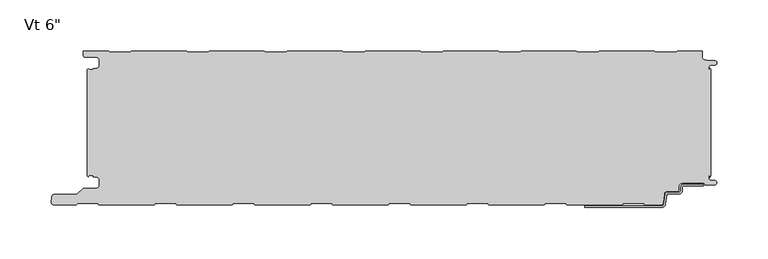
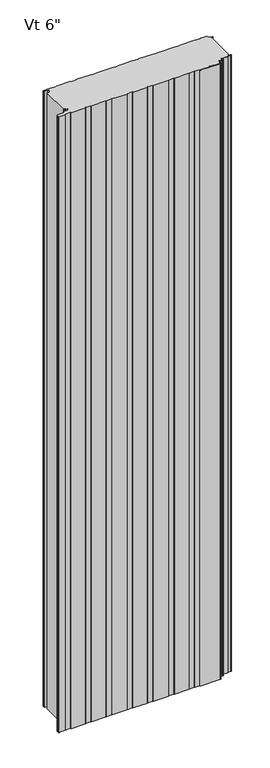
"""IFC4 building model written with IfcOpenShell, lengths in millimetres: plate geometry."""

import ifcopenshell
import ifcopenshell.guid

model = None  # the IFC model being written
_history = None  # IfcOwnerHistory: only IFC2X3 demands one
_inside = {}  # id of a spatial element -> (the spatial element, [elements in it])
_under = {}  # id of a project, library or spatial element -> (it, [spatial elements below it])
_declared = {}  # id of a project -> (the project, [libraries it declares])
_typed = {}  # id of a type object -> (the type object, [elements of that type])
_made_of = {}  # id of a material, layer set ... -> (it, [elements and type objects made of it])


def new_model(schema):
    """Start an empty IFC model of exactly this schema.

    Asked for "IFC4X3", IfcOpenShell would pick the latest addendum, in which some entities
    have other attributes; the version numbers below select the first issue.
    IFC2X3 requires an IfcOwnerHistory on every rooted entity: one is made here for all.
    """
    global model, _history
    if schema == "IFC4X3":
        model = ifcopenshell.file(schema_version=(4, 3, 0, 0))
    else:
        model = ifcopenshell.file(schema=schema)
    _inside.clear()
    _under.clear()
    _declared.clear()
    _typed.clear()
    _made_of.clear()
    _history = None
    if model.schema == "IFC2X3":
        org = make("IfcOrganization", Name="unknown")
        user = make(
            "IfcPersonAndOrganization",
            ThePerson=make("IfcPerson", FamilyName="unknown"),
            TheOrganization=org,
        )
        app = make(
            "IfcApplication",
            ApplicationDeveloper=org,
            Version="unknown",
            ApplicationFullName="unknown",
            ApplicationIdentifier="unknown",
        )
        _history = make(
            "IfcOwnerHistory",
            OwningUser=user,
            OwningApplication=app,
            ChangeAction="ADDED",
            CreationDate=0,
        )
    return model


def make(cls, **values):
    """One entity of the class cls with the attributes given. An attribute that is None is left unset."""
    return model.create_entity(
        cls, **{name: value for name, value in values.items() if value is not None}
    )


def rooted(cls, **values):
    """An entity with a GlobalId (a new one), such as an element, a storey or a relation."""
    return make(cls, GlobalId=ifcopenshell.guid.new(), OwnerHistory=_history, **values)


def si_unit(unit_type, name, prefix=None):
    """IfcSIUnit, for example si_unit("LENGTHUNIT", "METRE", prefix="MILLI")."""
    return make("IfcSIUnit", UnitType=unit_type, Prefix=prefix, Name=name)


def assignment(units):
    """IfcUnitAssignment: the units of a project."""
    return None if units is None else make("IfcUnitAssignment", Units=units)


def point(xyz):
    """IfcCartesianPoint."""
    return None if xyz is None else make("IfcCartesianPoint", Coordinates=xyz)


def direction(xyz):
    """IfcDirection."""
    return None if xyz is None else make("IfcDirection", DirectionRatios=xyz)


def frame(location, z_axis=None, x_axis=None):
    """IfcAxis2Placement3D, a coordinate frame: its origin and axes. An axis left out is left unset."""
    return make(
        "IfcAxis2Placement3D",
        Location=point(location),
        Axis=direction(z_axis),
        RefDirection=direction(x_axis),
    )


def frame_2d(location, x_axis=None):
    """IfcAxis2Placement2D, a coordinate frame in the plane: its origin and x axis."""
    return make(
        "IfcAxis2Placement2D", Location=point(location), RefDirection=direction(x_axis)
    )


def origin():
    """The frame at (0, 0, 0) with its axes left unset."""
    return frame((0.0, 0.0, 0.0))


def origin_with_axes():
    """The frame at (0, 0, 0) with the z axis (0, 0, 1) and the x axis (1, 0, 0) written out."""
    return frame((0.0, 0.0, 0.0), z_axis=(0.0, 0.0, 1.0), x_axis=(1.0, 0.0, 0.0))


def place(relative_to, where):
    """IfcLocalPlacement: puts the frame where relative to a parent placement (None: the world)."""
    return make(
        "IfcLocalPlacement", PlacementRelTo=relative_to, RelativePlacement=where
    )


def context(
    kind, dimensions, precision=None, world=None, true_north=None, identifier=None
):
    """IfcGeometricRepresentationContext, for example the 3D "Model" context."""
    return make(
        "IfcGeometricRepresentationContext",
        ContextIdentifier=identifier,
        ContextType=kind,
        CoordinateSpaceDimension=dimensions,
        Precision=precision,
        WorldCoordinateSystem=world,
        TrueNorth=true_north,
    )


def project(units=None, contexts=None):
    """IfcProject with its units and contexts."""
    return rooted(
        "IfcProject",
        Name="project",
        RepresentationContexts=contexts,
        UnitsInContext=assignment(units),
    )


def spatial(cls, under=None, at=None, **own):
    """A site, building, storey or space (cls), placed at a placement, below another one or the project."""
    s = rooted(cls, ObjectPlacement=at, **own)
    if under is not None:
        _under.setdefault(under.id(), (under, []))[1].append(s)
    return s


def polyline(points):
    """IfcPolyline through the points."""
    return make("IfcPolyline", Points=[point(p) for p in points])


def circle_curve(where, radius):
    """IfcCircle in the frame where."""
    return make("IfcCircle", Position=where, Radius=radius)


def trimmed(basis, trim1, trim2, sense, master):
    """IfcTrimmedCurve: the piece of a basis curve between two trims."""
    return make(
        "IfcTrimmedCurve",
        BasisCurve=basis,
        Trim1=trim1,
        Trim2=trim2,
        SenseAgreement=sense,
        MasterRepresentation=master,
    )


def segment(curve, same_sense, transition):
    """IfcCompositeCurveSegment."""
    return make(
        "IfcCompositeCurveSegment",
        Transition=transition,
        SameSense=same_sense,
        ParentCurve=curve,
    )


def composite_curve(segments, self_intersect=None):
    """IfcCompositeCurve: segments joined end to end."""
    return make("IfcCompositeCurve", Segments=segments, SelfIntersect=self_intersect)


def outline(outer, holes=None, kind="AREA"):
    """IfcArbitraryClosedProfileDef: a profile drawn as a closed curve; with holes, ...WithVoids."""
    if holes is None:
        return make("IfcArbitraryClosedProfileDef", ProfileType=kind, OuterCurve=outer)
    return make(
        "IfcArbitraryProfileDefWithVoids",
        ProfileType=kind,
        OuterCurve=outer,
        InnerCurves=holes,
    )


def extrude(swept, where, along, depth):
    """IfcExtrudedAreaSolid: the profile swept, set in the frame where, extruded along a direction by depth."""
    return make(
        "IfcExtrudedAreaSolid",
        SweptArea=swept,
        Position=where,
        ExtrudedDirection=direction(along),
        Depth=depth,
    )


def shape(context_of_items, identifier, shape_type, items):
    """IfcShapeRepresentation: the items that make up one representation, for example the "Body"."""
    return make(
        "IfcShapeRepresentation",
        ContextOfItems=context_of_items,
        RepresentationIdentifier=identifier,
        RepresentationType=shape_type,
        Items=items,
    )


def source(mapping_origin, context_of_items, identifier, shape_type, items):
    """IfcRepresentationMap: a shape defined once, which mapped items show again and again."""
    return make(
        "IfcRepresentationMap",
        MappingOrigin=mapping_origin,
        MappedRepresentation=shape(context_of_items, identifier, shape_type, items),
    )


def transform(
    local_origin,
    x_axis=None,
    y_axis=None,
    z_axis=None,
    scale=None,
    scale2=None,
    scale3=None,
    uniform=True,
):
    """IfcCartesianTransformationOperator3D, or its non-uniform kind. x_axis, y_axis, z_axis: its Axis1, 2, 3."""
    if uniform:
        return make(
            "IfcCartesianTransformationOperator3D",
            Axis1=direction(x_axis),
            Axis2=direction(y_axis),
            LocalOrigin=point(local_origin),
            Scale=scale,
            Axis3=direction(z_axis),
        )
    return make(
        "IfcCartesianTransformationOperator3DnonUniform",
        Axis1=direction(x_axis),
        Axis2=direction(y_axis),
        LocalOrigin=point(local_origin),
        Scale=scale,
        Axis3=direction(z_axis),
        Scale2=scale2,
        Scale3=scale3,
    )


def mapped(mapping_source, mapping_target):
    """IfcMappedItem: shows the shape of a source again, moved by a transform."""
    return make(
        "IfcMappedItem", MappingSource=mapping_source, MappingTarget=mapping_target
    )


def made_of(thing, what):
    """Note that an element or type object is made of a material, layer set ...; save() writes the relation."""
    if what is not None:
        _made_of.setdefault(what.id(), (what, []))[1].append(thing)
    return thing


def element(
    cls,
    number,
    at=None,
    inside=None,
    cuts=None,
    type_object=None,
    material=None,
    context=None,
    identifier="Body",
    shape_type=None,
    held_by="IfcProductDefinitionShape",
    body=None,
    shapes=None,
    **own,
):
    """One element of the class cls, such as IfcWall. Its Tag is "e" and its number.

    at: its placement. inside: the storey or other place that contains it. cuts: it is an
    opening in that element (IfcRelVoidsElement). A single representation is given by context,
    identifier, shape_type and body (its items); several are given by shapes. held_by: the class
    of the entity that holds the representations. save() writes the other relations.
    """
    e = rooted(cls, Tag="e%d" % number, ObjectPlacement=at, **own)
    if body is not None:
        shapes = [shape(context, identifier, shape_type, body)]
    if shapes is not None:
        e.Representation = make(held_by, Representations=shapes)
    if inside is not None:
        _inside.setdefault(inside.id(), (inside, []))[1].append(e)
    if cuts is not None:
        rooted(
            "IfcRelVoidsElement", RelatingBuildingElement=cuts, RelatedOpeningElement=e
        )
    if type_object is not None:
        _typed.setdefault(type_object.id(), (type_object, []))[1].append(e)
    return made_of(e, material)


def aggregate(whole, parts):
    """IfcRelAggregates: a whole, such as a stair, and the parts it consists of."""
    return rooted("IfcRelAggregates", RelatingObject=whole, RelatedObjects=parts)


def save(model, path):
    """Write the relations noted so far, then the file.

    IfcRelAggregates (storeys below a building ...), IfcRelContainedInSpatialStructure (elements
    in a storey), IfcRelDefinesByType, IfcRelAssociatesMaterial and IfcRelDeclares: one each for
    every whole, place, type object, material and project.
    """
    for whole, parts in _under.values():
        aggregate(whole, parts)
    for where, things in _inside.values():
        rooted(
            "IfcRelContainedInSpatialStructure",
            RelatedElements=things,
            RelatingStructure=where,
        )
    for kind, things in _typed.values():
        rooted("IfcRelDefinesByType", RelatedObjects=things, RelatingType=kind)
    for what, things in _made_of.values():
        rooted("IfcRelAssociatesMaterial", RelatedObjects=things, RelatingMaterial=what)
    for by, libraries in _declared.values():
        rooted("IfcRelDeclares", RelatingContext=by, RelatedDefinitions=libraries)
    model.write(path)


def plane_surface(at):
    """IfcPlane: the flat surface through the origin of the frame at, square to its z axis."""
    return make("IfcPlane", Position=at)


def cylinder_surface(at, radius):
    """IfcCylindricalSurface: all points at the distance radius from the z axis of the frame at."""
    return make("IfcCylindricalSurface", Position=at, Radius=radius)


def revolved_surface(curve, axis_point, axis_direction):
    """IfcSurfaceOfRevolution: the curve turned about the line through axis_point along axis_direction."""
    return make(
        "IfcSurfaceOfRevolution",
        SweptCurve=make("IfcArbitraryOpenProfileDef", ProfileType="CURVE", Curve=curve),
        AxisPosition=make("IfcAxis1Placement", Location=point(axis_point), Axis=direction(axis_direction)),
    )


def advanced_brep(points, edges, surfaces, faces):
    """IfcAdvancedBrep: a solid bounded by faces that lie on surfaces and meet in shared edges.

    An edge is (start, end): straight between two places in points (the first is 0);
    or (start, end, curve); or (start, end, curve, False) where it runs against its curve.
    A face is (place in surfaces, loops), or (place, loops, False) where it looks against
    its surface's normal. A loop lists edges by number (the first is 1), with a minus sign
    where the edge is run from its end to its start. The first loop is the outer one.
    """
    corners = [point(p) for p in points]
    vertices = [make("IfcVertexPoint", VertexGeometry=c) for c in corners]
    made = []
    for start, end, *more in edges:
        made.append(
            make(
                "IfcEdgeCurve",
                EdgeStart=vertices[start],
                EdgeEnd=vertices[end],
                EdgeGeometry=more[0] if more else make("IfcPolyline", Points=[corners[start], corners[end]]),
                SameSense=more[1] if len(more) > 1 else True,
            )
        )
    hull = []
    for where, loops, *sense in faces:
        bounds = []
        for j, loop in enumerate(loops):
            ring = [make("IfcOrientedEdge", EdgeElement=made[abs(k) - 1], Orientation=k > 0) for k in loop]
            bounds.append(
                make(
                    "IfcFaceOuterBound" if j == 0 else "IfcFaceBound",
                    Bound=make("IfcEdgeLoop", EdgeList=ring),
                    Orientation=True,
                )
            )
        hull.append(make("IfcAdvancedFace", Bounds=bounds, FaceSurface=surfaces[where], SameSense=sense[0] if sense else True))
    return make("IfcAdvancedBrep", Outer=make("IfcClosedShell", CfsFaces=hull))


def plate_ed403b6f(model_context):
    return source(origin(), model_context, "Body", "SolidModel", [
        advanced_brep(
        [(278.4543181, -131.3008679, 0.0), (297.1995181, -131.3008679, 0.0), (297.1995181, -132.8248679, 0.0), (278.4543181, -132.8248679, 0.0), (276.9303181, -134.3488679, 0.0), (276.9303181, -137.4476679, 0.0), (273.4759181, -140.9020679, 0.0), (262.2633607, -140.9020679, 0.0), (261.5042604, -141.5976552, 0.0), (260.3094328, -151.1416507, 0.0), (257.2730313, -153.924, 0.0), (181.7057181, -153.9360323, 0.0), (181.7057181, -152.4, 0.0), (257.2730313, -152.4, 0.0), (258.7912321, -151.0088254, 0.0), (259.9860597, -141.4648299, 0.0), (262.2633607, -139.3780679, 0.0), (273.4759181, -139.3780679, 0.0), (275.4063181, -137.4476679, 0.0), (275.4063181, -134.3488679, 0.0), (278.4543181, -131.3008679, 2400.0), (275.4063181, -134.3488679, 2400.0), (275.4063181, -137.4476679, 2400.0), (273.4759181, -139.3780679, 2400.0), (262.2633607, -139.3780679, 2400.0), (259.9860597, -141.4648299, 2400.0), (258.7912321, -151.0088254, 2400.0), (257.2730313, -152.4, 2400.0), (181.7057181, -152.4, 2400.0), (181.7057181, -153.9360323, 2400.0), (257.2730313, -153.9360323, 2400.0), (260.3094328, -151.1416507, 2400.0), (261.5042604, -141.5976552, 2400.0), (262.2633607, -140.9020679, 2400.0), (273.4759181, -140.9020679, 2400.0), (276.9303181, -137.4476679, 2400.0), (276.9303181, -134.3488679, 2400.0), (278.4543181, -132.8248679, 2400.0), (297.1995181, -132.8248679, 2400.0), (297.1995181, -131.3008679, 2400.0)],
        [
            (0, 1),
            (1, 2),
            (2, 3),
            (3, 4, circle_curve(frame((278.4543181, -134.3488679, 0.0), z_axis=(0.0, 0.0, 1.0), x_axis=(0.0, 1.0, 0.0)), 1.524)),
            (4, 5),
            (5, 6, circle_curve(frame((273.4759181, -137.4476679, 0.0), z_axis=(0.0, 0.0, -1.0), x_axis=(0.0, 1.0, 0.0)), 3.4544)),
            (6, 7),
            (7, 8, circle_curve(frame((262.2633607, -141.6640679, 0.0), z_axis=(0.0, 0.0, 1.0), x_axis=(0.0, 1.0, 0.0)), 0.762)),
            (8, 9),
            (9, 10, circle_curve(frame((257.2730313, -150.876, 0.0), z_axis=(0.0, 0.0, -1.0), x_axis=(0.0, 1.0, 0.0)), 3.048)),
            (10, 11),
            (11, 12),
            (12, 13),
            (13, 14, circle_curve(frame((257.2730313, -150.876, 0.0), z_axis=(0.0, 0.0, 1.0), x_axis=(0.0, 1.0, 0.0)), 1.524)),
            (14, 15),
            (15, 16, circle_curve(frame((262.2633607, -141.6640679, 0.0), z_axis=(0.0, 0.0, -1.0), x_axis=(0.0, 1.0, 0.0)), 2.286)),
            (16, 17),
            (17, 18, circle_curve(frame((273.4759181, -137.4476679, 0.0), z_axis=(0.0, 0.0, 1.0), x_axis=(0.0, 1.0, 0.0)), 1.9304)),
            (18, 19),
            (19, 0, circle_curve(frame((278.4543181, -134.3488679, 0.0), z_axis=(0.0, 0.0, -1.0), x_axis=(0.0, 1.0, 0.0)), 3.048)),
            (20, 21, circle_curve(frame((278.4543181, -134.3488679, 2400.0), z_axis=(0.0, 0.0, 1.0), x_axis=(0.0, 1.0, 0.0)), 3.048)),
            (21, 22),
            (22, 23, circle_curve(frame((273.4759181, -137.4476679, 2400.0), z_axis=(0.0, 0.0, -1.0), x_axis=(0.0, 1.0, 0.0)), 1.9304)),
            (23, 24),
            (24, 25, circle_curve(frame((262.2633607, -141.6640679, 2400.0), z_axis=(0.0, 0.0, 1.0), x_axis=(0.0, 1.0, 0.0)), 2.286)),
            (25, 26),
            (26, 27, circle_curve(frame((257.2730313, -150.876, 2400.0), z_axis=(0.0, 0.0, -1.0), x_axis=(0.0, 1.0, 0.0)), 1.524)),
            (27, 28),
            (28, 29),
            (29, 30),
            (30, 31, circle_curve(frame((257.2730313, -150.876, 2400.0), z_axis=(0.0, 0.0, 1.0), x_axis=(0.0, 1.0, 0.0)), 3.048)),
            (31, 32),
            (32, 33, circle_curve(frame((262.2633607, -141.6640679, 2400.0), z_axis=(0.0, 0.0, -1.0), x_axis=(0.0, 1.0, 0.0)), 0.762)),
            (33, 34),
            (34, 35, circle_curve(frame((273.4759181, -137.4476679, 2400.0), z_axis=(0.0, 0.0, 1.0), x_axis=(0.0, 1.0, 0.0)), 3.4544)),
            (35, 36),
            (36, 37, circle_curve(frame((278.4543181, -134.3488679, 2400.0), z_axis=(0.0, 0.0, -1.0), x_axis=(0.0, 1.0, 0.0)), 1.524)),
            (37, 38),
            (38, 39),
            (39, 20),
            (2, 38),
            (37, 3),
            (15, 25),
            (24, 16),
            (7, 33),
            (32, 8),
            (5, 35),
            (34, 6),
            (1, 39),
            (36, 4),
            (9, 31),
            (30, 10),
            (13, 27),
            (26, 14),
            (0, 20),
            (12, 28),
            (29, 11),
            (23, 17),
            (18, 22),
            (21, 19),
        ],
        [
            plane_surface(frame((297.1995181, -152.4, 0.0), z_axis=(0.0, 0.0, -1.0), x_axis=(-1.0, 0.0, 0.0))),
            plane_surface(frame((297.1995181, -152.4, 2400.0), z_axis=(0.0, 0.0, 1.0), x_axis=(-1.0, 0.0, 0.0))),
            plane_surface(frame((278.4543181, -132.8248679, 0.0), z_axis=(0.0, -1.0, 0.0), x_axis=(0.0, 0.0, 1.0))),
            cylinder_surface(frame((262.2633607, -141.6640679, 0.0), z_axis=(0.0, 0.0, -1.0), x_axis=(0.0, 1.0, 0.0)), 2.286),
            revolved_surface(polyline([(262.2633607, -140.9020679, 2400.0), (262.2633607, -140.9020679, 0.0)]), (262.2633607, -141.6640679, 0.0), (0.0, 0.0, 1.0)),
            cylinder_surface(frame((273.4759181, -137.4476679, 0.0), z_axis=(0.0, 0.0, -1.0), x_axis=(0.0, 1.0, 0.0)), 3.4544),
            plane_surface(frame((297.1995181, -132.8248679, 0.0), z_axis=(1.0, 0.0, 0.0), x_axis=(0.0, 0.0, 1.0))),
            revolved_surface(polyline([(278.4543181, -132.8248679, 2400.0), (278.4543181, -132.8248679, 0.0)]), (278.4543181, -134.3488679, 0.0), (0.0, 0.0, 1.0)),
            cylinder_surface(frame((257.2730313, -150.876, 0.0), z_axis=(0.0, 0.0, -1.0), x_axis=(0.0, 1.0, 0.0)), 3.048),
            revolved_surface(polyline([(257.2730313, -149.352, 2400.0), (257.2730313, -149.352, 0.0)]), (257.2730313, -150.876, 0.0), (0.0, 0.0, 1.0)),
            plane_surface(frame((297.1995181, -131.3008679, 0.0), z_axis=(0.0, 1.0, 0.0), x_axis=(0.0, 0.0, 1.0))),
            plane_surface(frame((259.9860597, -141.4648299, 0.0), z_axis=(-0.992254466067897, 0.12422187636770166, 0.0), x_axis=(0.0, 0.0, 1.0))),
            plane_surface(frame((257.2730313, -152.4, 0.0), z_axis=(0.0, 1.0, 0.0), x_axis=(0.0, 0.0, 1.0))),
            plane_surface(frame((260.3094328, -151.1416507, 0.0), z_axis=(0.9922544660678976, -0.12422187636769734, 0.0), x_axis=(0.0, 0.0, 1.0))),
            plane_surface(frame((276.9303181, -137.4476679, 0.0), z_axis=(1.0, 0.0, 0.0), x_axis=(0.0, 0.0, 1.0))),
            plane_surface(frame((181.7057181, -153.9360323, 0.0), z_axis=(0.0, -1.0, 0.0), x_axis=(0.0, 0.0, 1.0))),
            plane_surface(frame((181.7057181, -152.4, 0.0), z_axis=(-1.0, 0.0, 0.0), x_axis=(0.0, 0.0, 1.0))),
            plane_surface(frame((273.4759181, -139.3780679, 0.0), z_axis=(0.0, 1.0, 0.0), x_axis=(0.0, 0.0, 1.0))),
            plane_surface(frame((275.4063181, -134.3488679, 0.0), z_axis=(-1.0, 0.0, 0.0), x_axis=(0.0, 0.0, 1.0))),
            plane_surface(frame((262.2633607, -140.9020679, 0.0), z_axis=(0.0, -1.0, 0.0), x_axis=(0.0, 0.0, 1.0))),
            revolved_surface(polyline([(273.4759181, -135.5172679, 2400.0), (273.4759181, -135.5172679, 0.0)]), (273.4759181, -137.4476679, 0.0), (0.0, 0.0, 1.0)),
            cylinder_surface(frame((278.4543181, -134.3488679, 0.0), z_axis=(0.0, 0.0, -1.0), x_axis=(0.0, 1.0, 0.0)), 3.048),
        ],
        [
            (0, [[1, 2, 3, 4, 5, 6, 7, 8, 9, 10, 11, 12, 13, 14, 15, 16, 17, 18, 19, 20]]),
            (1, [[21, 22, 23, 24, 25, 26, 27, 28, 29, 30, 31, 32, 33, 34, 35, 36, 37, 38, 39, 40]]),
            (2, [[41, -38, 42, -3]]),
            (3, [[43, -25, 44, -16]]),
            (4, [[45, -33, 46, -8]]),
            (5, [[47, -35, 48, -6]]),
            (6, [[49, -39, -41, -2]]),
            (7, [[-42, -37, 50, -4]]),
            (8, [[51, -31, 52, -10]]),
            (9, [[53, -27, 54, -14]]),
            (10, [[55, -40, -49, -1]]),
            (11, [[-54, -26, -43, -15]]),
            (12, [[56, -28, -53, -13]]),
            (13, [[-46, -32, -51, -9]]),
            (14, [[-50, -36, -47, -5]]),
            (15, [[-52, -30, 57, -11]]),
            (16, [[-57, -29, -56, -12]]),
            (17, [[-44, -24, 58, -17]]),
            (18, [[59, -22, 60, -19]]),
            (19, [[-48, -34, -45, -7]]),
            (20, [[-58, -23, -59, -18]]),
            (21, [[-60, -21, -55, -20]]),
        ],
    ),
        extrude(outline(composite_curve([segment(polyline([(-303.7683001, -124.0760161), (-304.8, -123.0443162), (-304.8, -19.0328308), (-303.7686883, -18.0015192)]), True, "CONTINUOUS"), segment(trimmed(circle_curve(frame_2d((-302.7686911, -18.0015133)), 0.9999972), [point((-303.7686883, -18.0015192))], [point((-302.7686911, -19.0015105))], True, "CARTESIAN"), True, "CONTINUOUS"), segment(polyline([(-302.7686911, -19.0015105), (-298.7684875, -19.0015105), (-298.7684875, -18.0015159), (-296.0762777, -18.0015159)]), True, "CONTINUOUS"), segment(trimmed(circle_curve(frame_2d((-296.0762777, -14.7015202)), 3.2999957), [point((-296.0762777, -18.0015159))], [point((-292.776282, -14.7015202))], True, "CARTESIAN"), True, "CONTINUOUS"), segment(polyline([(-292.776282, -14.7015202), (-292.776282, -10.301529)]), True, "CONTINUOUS"), segment(trimmed(circle_curve(frame_2d((-296.0762778, -10.301529)), 3.2999959), [point((-292.776282, -10.301529))], [point((-296.0762778, -7.0015331))], True, "CARTESIAN"), True, "CONTINUOUS"), segment(polyline([(-296.0762778, -7.0015331), (-306.4962564, -7.0015331)]), True, "CONTINUOUS"), segment(trimmed(circle_curve(frame_2d((-306.4962564, -5.2315389)), 1.7699942), [point((-306.4962564, -7.0015331))], [point((-308.2662506, -5.2315389))], False, "CARTESIAN"), True, "CONTINUOUS"), segment(polyline([(-308.2662506, -5.2315389), (-308.2662506, -0.9999916), (-283.765974, -0.9999916), (-282.3803313, -2.2002307), (-263.005165, -2.2002307), (-261.6195321, -1.0), (-207.5661167, -1.0), (-206.1804837, -2.2002307), (-186.8053174, -2.2002307), (-185.4196845, -1.0), (-131.3662691, -1.0), (-129.9806361, -2.2002307), (-110.6054698, -2.2002307), (-109.2198369, -1.0), (-55.1664215, -1.0), (-53.7807885, -2.2002307), (-34.4056222, -2.2002307), (-33.0199893, -1.0), (21.0334261, -1.0), (22.4190591, -2.2002307), (41.7942254, -2.2002307), (43.1798583, -1.0), (97.2332737, -1.0), (98.6189067, -2.2002307), (117.994073, -2.2002307), (119.3797059, -1.0), (173.4331213, -1.0), (174.8187543, -2.2002307), (194.1939206, -2.2002307), (195.5795535, -1.0), (249.6329689, -1.0), (251.0186019, -2.2002307), (270.3937682, -2.2002307), (271.7794011, -1.0), (296.2787013, -1.0), (296.2787013, -6.0026007)]), True, "CONTINUOUS"), segment(trimmed(circle_curve(frame_2d((300.2939817, -5.9867338)), 4.0153117), [point((296.2787013, -6.0026007))], [point((300.1016499, -9.9974365))], True, "CARTESIAN"), True, "CONTINUOUS"), segment(polyline([(300.1016499, -9.9974365), (308.5931719, -10.4046442)]), True, "CONTINUOUS"), segment(trimmed(circle_curve(frame_2d((308.4781032, -12.5552871)), 2.153719), [point((308.5931719, -10.4046442))], [point((308.5921924, -14.7059822))], False, "CARTESIAN"), True, "CONTINUOUS"), segment(polyline([(308.5921924, -14.7059822), (304.4513685, -14.9256429)]), True, "CONTINUOUS"), segment(trimmed(circle_curve(frame_2d((304.5186869, -16.6743462)), 1.7499985), [point((304.4513685, -14.9256429))], [point((302.7686884, -16.6743462))], True, "CARTESIAN"), True, "CONTINUOUS"), segment(polyline([(302.7686884, -16.6743462), (302.7686884, -19.0015288), (303.7686884, -19.0015288), (303.7686884, -17.5871409), (304.8, -18.6184525), (304.8, -123.4586945), (303.7686884, -124.4900061), (303.7686884, -122.9025061), (302.7686884, -122.9025061), (302.7686884, -125.6870527)]), True, "CONTINUOUS"), segment(trimmed(circle_curve(frame_2d((304.6099653, -125.6434917)), 1.8417922), [point((302.7686884, -125.6870527))], [point((304.4977997, -127.4818653))], True, "CARTESIAN"), True, "CONTINUOUS"), segment(polyline([(304.4977997, -127.4818653), (308.5037148, -127.7262802)]), True, "CONTINUOUS"), segment(trimmed(circle_curve(frame_2d((308.4236622, -129.8266291)), 2.1018739), [point((308.5037148, -127.7262802))], [point((308.506811, -131.9268578))], False, "CARTESIAN"), True, "CONTINUOUS"), segment(polyline([(308.506811, -131.9268578), (299.5334028, -132.2821181), (298.3895515, -130.3012703), (277.2091924, -130.3012703)]), True, "CONTINUOUS"), segment(trimmed(circle_curve(frame_2d((277.2091924, -134.3007233)), 3.9994529), [point((277.2091924, -130.3012703))], [point((273.2097394, -134.3007233))], True, "CARTESIAN"), True, "CONTINUOUS"), segment(polyline([(273.2097394, -134.3007233), (273.2097394, -137.4443786)]), True, "CONTINUOUS"), segment(trimmed(circle_curve(frame_2d((272.2583308, -137.4443786)), 0.9514087), [point((273.2097394, -137.4443786))], [point((272.2583308, -138.3957873))], False, "CARTESIAN"), True, "CONTINUOUS"), segment(polyline([(272.2583308, -138.3957873), (262.1653654, -138.3957873)]), True, "CONTINUOUS"), segment(trimmed(circle_curve(frame_2d((262.0396267, -141.4231732)), 3.0299959), [point((262.1653654, -138.3957873))], [point((259.021161, -141.1590902))], True, "CARTESIAN"), True, "CONTINUOUS"), segment(polyline([(259.021161, -141.1590902), (258.2671075, -149.6178029)]), True, "CONTINUOUS"), segment(trimmed(circle_curve(frame_2d((256.3156233, -149.4461194)), 1.9590216), [point((258.2671075, -149.6178029))], [point((256.3156233, -151.4051411))], False, "CARTESIAN"), True, "CONTINUOUS"), segment(polyline([(256.3156233, -151.4051411), (240.2456965, -151.4051411), (239.0403247, -150.1997693), (219.3209122, -150.1997693), (218.1206815, -151.4), (164.0405497, -151.4), (162.840319, -150.1997693), (143.1209065, -150.1997693), (141.9206758, -151.4), (87.840544, -151.4), (86.6403133, -150.1997693), (66.9209008, -150.1997693), (65.7206701, -151.4), (11.6405383, -151.4), (10.4403076, -150.1997693), (-9.2791049, -150.1997693), (-10.4793356, -151.4), (-64.5594674, -151.4), (-65.7596981, -150.1997693), (-85.4791106, -150.1997693), (-86.6793413, -151.4), (-140.7594731, -151.4), (-141.9597038, -150.1997693), (-161.6791163, -150.1997693), (-162.879347, -151.4), (-216.9594787, -151.4), (-218.1597095, -150.1997693), (-237.879122, -150.1997693), (-239.0793527, -151.4), (-293.1594844, -151.4), (-294.3597151, -150.1997693), (-314.0791277, -150.1997693), (-315.2790962, -151.3997378), (-337.2521176, -151.3997378)]), True, "CONTINUOUS"), segment(trimmed(circle_curve(frame_2d((-337.2521176, -148.8294985)), 2.5702393), [point((-337.2521176, -151.3997378))], [point((-339.8125699, -148.6054129))], False, "CARTESIAN"), True, "CONTINUOUS"), segment(polyline([(-339.8125699, -148.6054129), (-339.3765709, -143.623592)]), True, "CONTINUOUS"), segment(trimmed(circle_curve(frame_2d((-336.7198392, -144.1049826)), 2.6999926), [point((-339.3765709, -143.623592))], [point((-336.7198392, -141.40499))], False, "CARTESIAN"), True, "CONTINUOUS"), segment(polyline([(-336.7198392, -141.40499), (-314.6247096, -141.40499), (-309.1226385, -135.9029189)]), True, "CONTINUOUS"), segment(trimmed(circle_curve(frame_2d((-307.9205608, -137.1049966)), 1.6999946), [point((-309.1226385, -135.9029189))], [point((-307.9205608, -135.405002))], False, "CARTESIAN"), True, "CONTINUOUS"), segment(polyline([(-307.9205608, -135.405002), (-296.1096717, -135.405002)]), True, "CONTINUOUS"), segment(trimmed(circle_curve(frame_2d((-296.1096717, -132.0550067)), 3.3499953), [point((-296.1096717, -135.405002))], [point((-292.7596764, -132.0550067))], True, "CARTESIAN"), True, "CONTINUOUS"), segment(polyline([(-292.7596764, -132.0550067), (-292.7596764, -127.6550155)]), True, "CONTINUOUS"), segment(trimmed(circle_curve(frame_2d((-296.1096717, -127.6550155)), 3.3499953), [point((-292.7596764, -127.6550155))], [point((-296.1096717, -124.3050202))], True, "CARTESIAN"), True, "CONTINUOUS"), segment(polyline([(-296.1096717, -124.3050202), (-298.8087827, -124.3050202), (-298.8087827, -122.9065413), (-302.5671761, -122.9065413)]), True, "CONTINUOUS"), segment(trimmed(circle_curve(frame_2d((-302.5686908, -124.106538)), 1.1999976), [point((-302.5671761, -122.9065413))], [point((-303.7683001, -124.0760161))], True, "CARTESIAN"), True, "CONTINUOUS")], self_intersect=False)), origin_with_axes(), (0.0, 0.0, 1.0), 2400.0),
    ])


if __name__ == "__main__":
    model = new_model("IFC4")
    model_context = context("Model", 3, world=origin())
    ifc_project = project(units=[si_unit("LENGTHUNIT", "METRE", prefix="MILLI")], contexts=[model_context])
    site = spatial("IfcSite", under=ifc_project)
    building = spatial("IfcBuilding", under=site)
    placement = place(None, origin())
    plate_shape = plate_ed403b6f(model_context)
    element("IfcPlate", 1, ObjectType="KIP-24-Karrier-KP-R19-CP-Vt-SL3-8in_SL : Vt 6\"", at=placement, inside=building, context=model_context, shape_type="MappedRepresentation", body=[
        mapped(plate_shape, transform((0.0, 0.0, 0.0), x_axis=(1.0, 0.0, 0.0), y_axis=(0.0, 1.0, 0.0), z_axis=(0.0, 0.0, 1.0))),
    ])
    save(model, "model.ifc")
